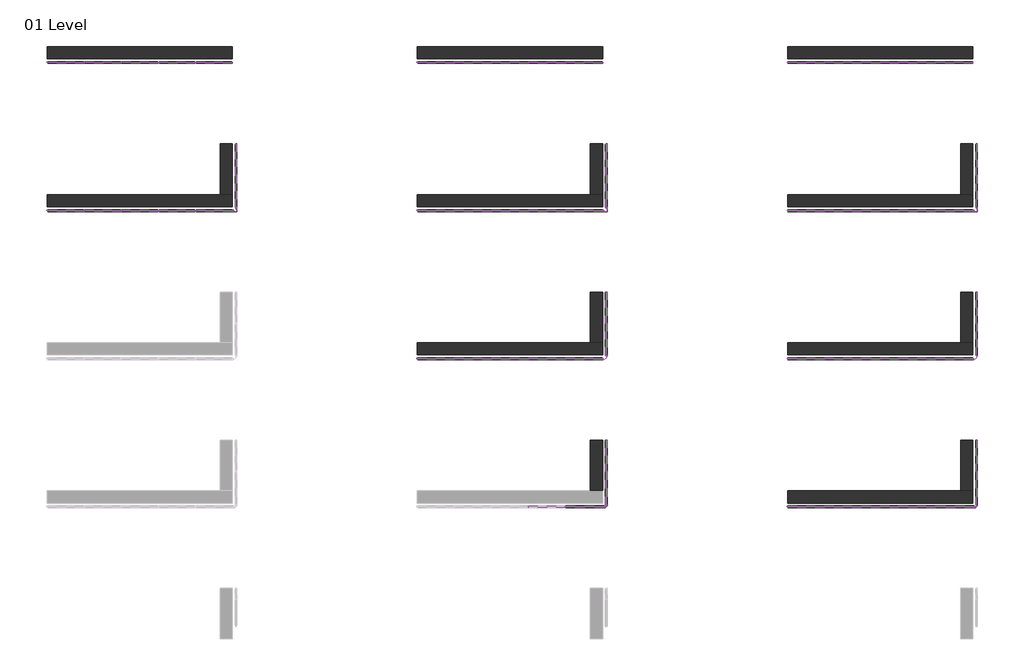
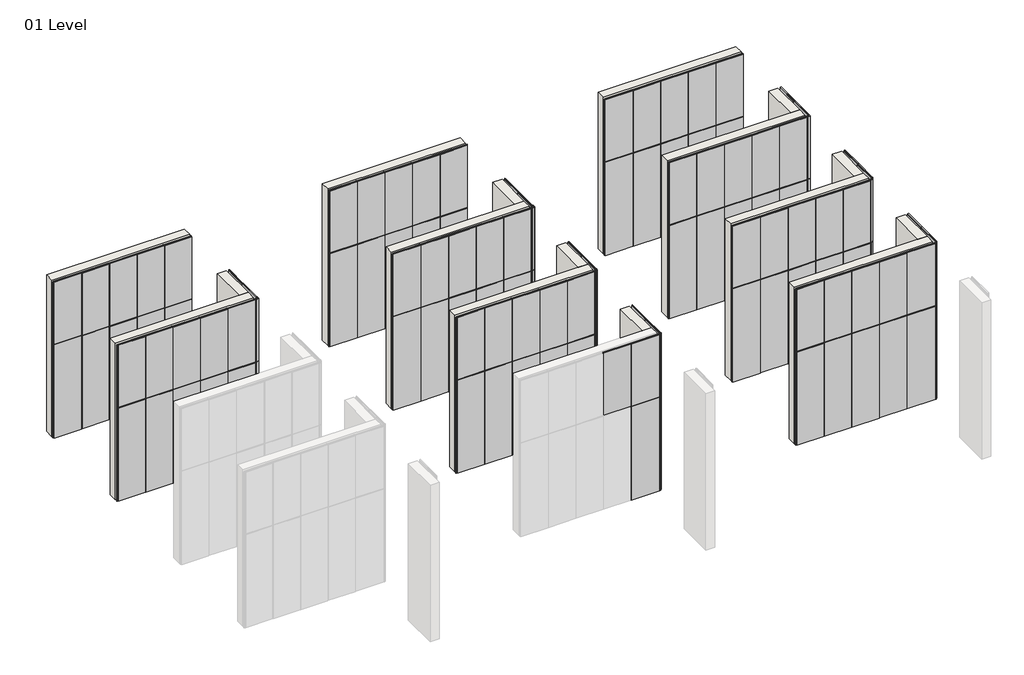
# One storey, part 9 of 9: 121 plates, 16 walls.
"""IFC4 building model written with IfcOpenShell, lengths in millimetres."""

from ifc_helpers import new_model, si_unit, origin, origin_with_axes, place, context, project, spatial, polyline, outline, extrude, faceted_brep, transform, mapped, element, save
from components import plate_214ba543, plate_652c8ec9, plate_a53cdf28, plate_28b83c4b, plate_9cd253ac, plate_fa0548bc, plate_03266036, plate_26fcdb20, plate_6a977542, plate_9e6a310b, plate_8625c289, plate_869ad82a, plate_431b4100, plate_801de16a, plate_af513f9f, plate_33d7b416, plate_911a777f, plate_6156d926, plate_39fda51a, plate_5637677f, plate_f77fe287, plate_504bdb2b, plate_a16a2f88, plate_ba954cb5, plate_8cbeb516, plate_391c79d7, plate_e4ad071d, plate_fc203410, plate_4d4ffbcd, plate_12ec6323, plate_7b32c614, plate_e3b225b6, plate_6d2e9c15, plate_6d0773e9, plate_b0e704c2, plate_dc24734b, plate_0ba88bf3, plate_6ee5b050, plate_bcce995c, plate_1cdea535

model = new_model("IFC4")

# Units and contexts
model_context = context("Model", 3, world=origin())
ifc_project = project(units=[si_unit("LENGTHUNIT", "METRE", prefix="MILLI")], contexts=[model_context])

# Site, building, storey
site = spatial("IfcSite", under=ifc_project)
building = spatial("IfcBuilding", under=site)
storey = spatial("IfcBuildingStorey", under=building, Name="01 Level", Elevation=0.0)

# Plates
placement = place(None, origin())
plate_shape = plate_214ba543(model_context)
element("IfcPlate", 1, ObjectType="Trimo_Qbiss Screen_Normal Panel-VERTICAL : HR - B", at=placement, inside=storey, context=model_context, shape_type="MappedRepresentation", body=[
    mapped(plate_shape, transform((21797.7762865, 12916.7286683, 0.0), x_axis=(-1.0, 0.0, 0.0), y_axis=(0.0, -1.0, 0.0), z_axis=(0.0, 0.0, 1.0))),
])
element("IfcPlate", 2, ObjectType="Trimo_Qbiss Screen_Normal Panel-VERTICAL : HR - B", at=placement, inside=storey, context=model_context, shape_type="MappedRepresentation", body=[
    mapped(plate_shape, transform((18797.7762865, 12916.7286683, 0.0), x_axis=(-1.0, 0.0, 0.0), y_axis=(0.0, -1.0, 0.0), z_axis=(0.0, 0.0, 1.0))),
])
element("IfcPlate", 3, ObjectType="Trimo_Qbiss Screen_Normal Panel-VERTICAL : HR - B", at=placement, inside=storey, context=model_context, shape_type="MappedRepresentation", body=[
    mapped(plate_shape, transform((19797.7762865, 8916.7286683, 0.0), x_axis=(-1.0, 0.0, 0.0), y_axis=(0.0, -1.0, 0.0), z_axis=(0.0, 0.0, 1.0))),
])
element("IfcPlate", 4, ObjectType="Trimo_Qbiss Screen_Normal Panel-VERTICAL : HR - B", at=placement, inside=storey, context=model_context, shape_type="MappedRepresentation", body=[
    mapped(plate_shape, transform((17797.7762865, 12916.7286683, 0.0), x_axis=(-1.0, 0.0, 0.0), y_axis=(0.0, -1.0, 0.0), z_axis=(0.0, 0.0, 1.0))),
])
element("IfcPlate", 5, ObjectType="Trimo_Qbiss Screen_Normal Panel-VERTICAL : HR - B", at=placement, inside=storey, context=model_context, shape_type="MappedRepresentation", body=[
    mapped(plate_shape, transform((19797.7762865, 12916.7286683, 0.0), x_axis=(-1.0, 0.0, 0.0), y_axis=(0.0, -1.0, 0.0), z_axis=(0.0, 0.0, 1.0))),
])
element("IfcPlate", 6, ObjectType="Trimo_Qbiss Screen_Normal Panel-VERTICAL : HR - B", at=placement, inside=storey, context=model_context, shape_type="MappedRepresentation", body=[
    mapped(plate_shape, transform((20797.7762865, 12916.7286683, 0.0), x_axis=(-1.0, 0.0, 0.0), y_axis=(0.0, -1.0, 0.0), z_axis=(0.0, 0.0, 1.0))),
])
element("IfcPlate", 7, ObjectType="Trimo_Qbiss Screen_Normal Panel-VERTICAL : HR - B", at=placement, inside=storey, context=model_context, shape_type="MappedRepresentation", body=[
    mapped(plate_shape, transform((17797.7762865, 8916.7286683, 0.0), x_axis=(-1.0, 0.0, 0.0), y_axis=(0.0, -1.0, 0.0), z_axis=(0.0, 0.0, 1.0))),
])
element("IfcPlate", 8, ObjectType="Trimo_Qbiss Screen_Normal Panel-VERTICAL : HR - B", at=placement, inside=storey, context=model_context, shape_type="MappedRepresentation", body=[
    mapped(plate_shape, transform((18797.7762865, 8916.7286683, 0.0), x_axis=(-1.0, 0.0, 0.0), y_axis=(0.0, -1.0, 0.0), z_axis=(0.0, 0.0, 1.0))),
])
element("IfcPlate", 9, ObjectType="Trimo_Qbiss Screen_Normal Panel-VERTICAL : HR - B", at=placement, inside=storey, context=model_context, shape_type="MappedRepresentation", body=[
    mapped(plate_shape, transform((20797.7762865, 8916.7286683, 0.0), x_axis=(-1.0, 0.0, 0.0), y_axis=(0.0, -1.0, 0.0), z_axis=(0.0, 0.0, 1.0))),
])
plate_2_shape = plate_652c8ec9(model_context)
element("IfcPlate", 10, ObjectType="Trimo_Qbiss Screen_Normal Panel-VERTICAL : HR - B", at=placement, inside=storey, context=model_context, shape_type="MappedRepresentation", body=[
    mapped(plate_2_shape, transform((21797.7762865, 12916.7286683, 3600.0), x_axis=(-1.0, 0.0, 0.0), y_axis=(0.0, -1.0, 0.0), z_axis=(0.0, 0.0, 1.0))),
])
element("IfcPlate", 11, ObjectType="Trimo_Qbiss Screen_Normal Panel-VERTICAL : HR - B", at=placement, inside=storey, context=model_context, shape_type="MappedRepresentation", body=[
    mapped(plate_2_shape, transform((18797.7762865, 12916.7286683, 3600.0), x_axis=(-1.0, 0.0, 0.0), y_axis=(0.0, -1.0, 0.0), z_axis=(0.0, 0.0, 1.0))),
])
element("IfcPlate", 12, ObjectType="Trimo_Qbiss Screen_Normal Panel-VERTICAL : HR - B", at=placement, inside=storey, context=model_context, shape_type="MappedRepresentation", body=[
    mapped(plate_2_shape, transform((19797.7762865, 8916.7286683, 3600.0), x_axis=(-1.0, 0.0, 0.0), y_axis=(0.0, -1.0, 0.0), z_axis=(0.0, 0.0, 1.0))),
])
element("IfcPlate", 13, ObjectType="Trimo_Qbiss Screen_Normal Panel-VERTICAL : HR - B", at=placement, inside=storey, context=model_context, shape_type="MappedRepresentation", body=[
    mapped(plate_2_shape, transform((17797.7762865, 12916.7286683, 3600.0), x_axis=(-1.0, 0.0, 0.0), y_axis=(0.0, -1.0, 0.0), z_axis=(0.0, 0.0, 1.0))),
])
element("IfcPlate", 14, ObjectType="Trimo_Qbiss Screen_Normal Panel-VERTICAL : HR - B", at=placement, inside=storey, context=model_context, shape_type="MappedRepresentation", body=[
    mapped(plate_2_shape, transform((19797.7762865, 12916.7286683, 3600.0), x_axis=(-1.0, 0.0, 0.0), y_axis=(0.0, -1.0, 0.0), z_axis=(0.0, 0.0, 1.0))),
])
element("IfcPlate", 15, ObjectType="Trimo_Qbiss Screen_Normal Panel-VERTICAL : HR - B", at=placement, inside=storey, context=model_context, shape_type="MappedRepresentation", body=[
    mapped(plate_2_shape, transform((20797.7762865, 12916.7286683, 3600.0), x_axis=(-1.0, 0.0, 0.0), y_axis=(0.0, -1.0, 0.0), z_axis=(0.0, 0.0, 1.0))),
])
element("IfcPlate", 16, ObjectType="Trimo_Qbiss Screen_Normal Panel-VERTICAL : HR - B", at=placement, inside=storey, context=model_context, shape_type="MappedRepresentation", body=[
    mapped(plate_2_shape, transform((17797.7762865, 8916.7286683, 3600.0), x_axis=(-1.0, 0.0, 0.0), y_axis=(0.0, -1.0, 0.0), z_axis=(0.0, 0.0, 1.0))),
])
element("IfcPlate", 17, ObjectType="Trimo_Qbiss Screen_Normal Panel-VERTICAL : HR - B", at=placement, inside=storey, context=model_context, shape_type="MappedRepresentation", body=[
    mapped(plate_2_shape, transform((18797.7762865, 8916.7286683, 3600.0), x_axis=(-1.0, 0.0, 0.0), y_axis=(0.0, -1.0, 0.0), z_axis=(0.0, 0.0, 1.0))),
])
element("IfcPlate", 18, ObjectType="Trimo_Qbiss Screen_Normal Panel-VERTICAL : HR - B", at=placement, inside=storey, context=model_context, shape_type="MappedRepresentation", body=[
    mapped(plate_2_shape, transform((20797.7762865, 8916.7286683, 3600.0), x_axis=(-1.0, 0.0, 0.0), y_axis=(0.0, -1.0, 0.0), z_axis=(0.0, 0.0, 1.0))),
])
plate_3_shape = plate_a53cdf28(model_context)
element("IfcPlate", 19, ObjectType="Trimo_Qbiss Screen_Normal Panel-VERTICAL : HR - B", at=placement, inside=storey, context=model_context, shape_type="MappedRepresentation", body=[
    mapped(plate_3_shape, transform((21797.7762865, 8916.7286683, 0.0), x_axis=(-1.0, 0.0, 0.0), y_axis=(0.0, -1.0, 0.0), z_axis=(0.0, 0.0, 1.0))),
])
plate_4_shape = plate_28b83c4b(model_context)
element("IfcPlate", 20, ObjectType="Trimo_Qbiss Screen_Normal Panel-VERTICAL : HR - B", at=placement, inside=storey, context=model_context, shape_type="MappedRepresentation", body=[
    mapped(plate_4_shape, transform((21797.7762865, 8916.7286683, 3600.0), x_axis=(-1.0, 0.0, 0.0), y_axis=(0.0, -1.0, 0.0), z_axis=(0.0, 0.0, 1.0))),
])
plate_5_shape = plate_9cd253ac(model_context)
element("IfcPlate", 21, ObjectType="Trimo_Qbiss Screen_Normal Panel-VERTICAL : HR - B", at=placement, inside=storey, context=model_context, shape_type="MappedRepresentation", body=[
    mapped(plate_5_shape, transform((22297.7762865, 10191.7286683, 0.0), x_axis=(0.0, -1.0, 0.0), y_axis=(1.0, 0.0, 0.0), z_axis=(0.0, 0.0, 1.0))),
])
plate_6_shape = plate_fa0548bc(model_context)
element("IfcPlate", 22, ObjectType="Trimo_Qbiss Screen_Normal Panel-VERTICAL : HR - B", at=placement, inside=storey, context=model_context, shape_type="MappedRepresentation", body=[
    mapped(plate_6_shape, transform((22297.7762865, 10191.7286683, 3600.0), x_axis=(0.0, -1.0, 0.0), y_axis=(1.0, 0.0, 0.0), z_axis=(0.0, 0.0, 1.0))),
])
plate_7_shape = plate_03266036(model_context)
element("IfcPlate", 23, ObjectType="Trimo_Qbiss Screen_Normal Panel-VERTICAL : HR - B", at=placement, inside=storey, context=model_context, shape_type="MappedRepresentation", body=[
    mapped(plate_7_shape, transform((22297.7762865, 9341.7286683, 0.0), x_axis=(0.0, -1.0, 0.0), y_axis=(1.0, 0.0, 0.0), z_axis=(0.0, 0.0, 1.0))),
])
plate_8_shape = plate_26fcdb20(model_context)
element("IfcPlate", 24, ObjectType="Trimo_Qbiss Screen_Normal Panel-VERTICAL : HR - B", at=placement, inside=storey, context=model_context, shape_type="MappedRepresentation", body=[
    mapped(plate_8_shape, transform((22297.7762865, 9341.7286683, 3600.0), x_axis=(0.0, -1.0, 0.0), y_axis=(1.0, 0.0, 0.0), z_axis=(0.0, 0.0, 1.0))),
])
plate_9_shape = plate_6a977542(model_context)
element("IfcPlate", 25, ObjectType="Trimo_Qbiss Screen_Normal Panel-VERTICAL : HR - FB", at=placement, inside=storey, context=model_context, shape_type="MappedRepresentation", body=[
    mapped(plate_9_shape, transform((31797.7762865, 12916.7286683, 0.0), x_axis=(-1.0, 0.0, 0.0), y_axis=(0.0, -1.0, 0.0), z_axis=(0.0, 0.0, 1.0))),
])
element("IfcPlate", 26, ObjectType="Trimo_Qbiss Screen_Normal Panel-VERTICAL : HR - FB", at=placement, inside=storey, context=model_context, shape_type="MappedRepresentation", body=[
    mapped(plate_9_shape, transform((28797.7762865, 12916.7286683, 0.0), x_axis=(-1.0, 0.0, 0.0), y_axis=(0.0, -1.0, 0.0), z_axis=(0.0, 0.0, 1.0))),
])
element("IfcPlate", 27, ObjectType="Trimo_Qbiss Screen_Normal Panel-VERTICAL : HR - FB", at=placement, inside=storey, context=model_context, shape_type="MappedRepresentation", body=[
    mapped(plate_9_shape, transform((29797.7762865, 8916.7286683, 0.0), x_axis=(-1.0, 0.0, 0.0), y_axis=(0.0, -1.0, 0.0), z_axis=(0.0, 0.0, 1.0))),
])
element("IfcPlate", 28, ObjectType="Trimo_Qbiss Screen_Normal Panel-VERTICAL : HR - FB", at=placement, inside=storey, context=model_context, shape_type="MappedRepresentation", body=[
    mapped(plate_9_shape, transform((29797.7762865, 4916.7286683, 0.0), x_axis=(-1.0, 0.0, 0.0), y_axis=(0.0, -1.0, 0.0), z_axis=(0.0, 0.0, 1.0))),
])
element("IfcPlate", 29, ObjectType="Trimo_Qbiss Screen_Normal Panel-VERTICAL : HR - FB", at=placement, inside=storey, context=model_context, shape_type="MappedRepresentation", body=[
    mapped(plate_9_shape, transform((27797.7762865, 12916.7286683, 0.0), x_axis=(-1.0, 0.0, 0.0), y_axis=(0.0, -1.0, 0.0), z_axis=(0.0, 0.0, 1.0))),
])
element("IfcPlate", 30, ObjectType="Trimo_Qbiss Screen_Normal Panel-VERTICAL : HR - FB", at=placement, inside=storey, context=model_context, shape_type="MappedRepresentation", body=[
    mapped(plate_9_shape, transform((29797.7762865, 12916.7286683, 0.0), x_axis=(-1.0, 0.0, 0.0), y_axis=(0.0, -1.0, 0.0), z_axis=(0.0, 0.0, 1.0))),
])
element("IfcPlate", 31, ObjectType="Trimo_Qbiss Screen_Normal Panel-VERTICAL : HR - FB", at=placement, inside=storey, context=model_context, shape_type="MappedRepresentation", body=[
    mapped(plate_9_shape, transform((30797.7762865, 12916.7286683, 0.0), x_axis=(-1.0, 0.0, 0.0), y_axis=(0.0, -1.0, 0.0), z_axis=(0.0, 0.0, 1.0))),
])
element("IfcPlate", 32, ObjectType="Trimo_Qbiss Screen_Normal Panel-VERTICAL : HR - FB", at=placement, inside=storey, context=model_context, shape_type="MappedRepresentation", body=[
    mapped(plate_9_shape, transform((27797.7762865, 8916.7286683, 0.0), x_axis=(-1.0, 0.0, 0.0), y_axis=(0.0, -1.0, 0.0), z_axis=(0.0, 0.0, 1.0))),
])
element("IfcPlate", 33, ObjectType="Trimo_Qbiss Screen_Normal Panel-VERTICAL : HR - FB", at=placement, inside=storey, context=model_context, shape_type="MappedRepresentation", body=[
    mapped(plate_9_shape, transform((28797.7762865, 8916.7286683, 0.0), x_axis=(-1.0, 0.0, 0.0), y_axis=(0.0, -1.0, 0.0), z_axis=(0.0, 0.0, 1.0))),
])
element("IfcPlate", 34, ObjectType="Trimo_Qbiss Screen_Normal Panel-VERTICAL : HR - FB", at=placement, inside=storey, context=model_context, shape_type="MappedRepresentation", body=[
    mapped(plate_9_shape, transform((30797.7762865, 8916.7286683, 0.0), x_axis=(-1.0, 0.0, 0.0), y_axis=(0.0, -1.0, 0.0), z_axis=(0.0, 0.0, 1.0))),
])
element("IfcPlate", 35, ObjectType="Trimo_Qbiss Screen_Normal Panel-VERTICAL : HR - FB", at=placement, inside=storey, context=model_context, shape_type="MappedRepresentation", body=[
    mapped(plate_9_shape, transform((27797.7762865, 4916.7286683, 0.0), x_axis=(-1.0, 0.0, 0.0), y_axis=(0.0, -1.0, 0.0), z_axis=(0.0, 0.0, 1.0))),
])
element("IfcPlate", 36, ObjectType="Trimo_Qbiss Screen_Normal Panel-VERTICAL : HR - FB", at=placement, inside=storey, context=model_context, shape_type="MappedRepresentation", body=[
    mapped(plate_9_shape, transform((28797.7762865, 4916.7286683, 0.0), x_axis=(-1.0, 0.0, 0.0), y_axis=(0.0, -1.0, 0.0), z_axis=(0.0, 0.0, 1.0))),
])
element("IfcPlate", 37, ObjectType="Trimo_Qbiss Screen_Normal Panel-VERTICAL : HR - FB", at=placement, inside=storey, context=model_context, shape_type="MappedRepresentation", body=[
    mapped(plate_9_shape, transform((30797.7762865, 4916.7286683, 0.0), x_axis=(-1.0, 0.0, 0.0), y_axis=(0.0, -1.0, 0.0), z_axis=(0.0, 0.0, 1.0))),
])
plate_10_shape = plate_9e6a310b(model_context)
element("IfcPlate", 38, ObjectType="Trimo_Qbiss Screen_Normal Panel-VERTICAL : HR - FB", at=placement, inside=storey, context=model_context, shape_type="MappedRepresentation", body=[
    mapped(plate_10_shape, transform((31797.7762865, 12916.7286683, 3600.0), x_axis=(-1.0, 0.0, 0.0), y_axis=(0.0, -1.0, 0.0), z_axis=(0.0, 0.0, 1.0))),
])
element("IfcPlate", 39, ObjectType="Trimo_Qbiss Screen_Normal Panel-VERTICAL : HR - FB", at=placement, inside=storey, context=model_context, shape_type="MappedRepresentation", body=[
    mapped(plate_10_shape, transform((28797.7762865, 12916.7286683, 3600.0), x_axis=(-1.0, 0.0, 0.0), y_axis=(0.0, -1.0, 0.0), z_axis=(0.0, 0.0, 1.0))),
])
element("IfcPlate", 40, ObjectType="Trimo_Qbiss Screen_Normal Panel-VERTICAL : HR - FB", at=placement, inside=storey, context=model_context, shape_type="MappedRepresentation", body=[
    mapped(plate_10_shape, transform((29797.7762865, 8916.7286683, 3600.0), x_axis=(-1.0, 0.0, 0.0), y_axis=(0.0, -1.0, 0.0), z_axis=(0.0, 0.0, 1.0))),
])
element("IfcPlate", 41, ObjectType="Trimo_Qbiss Screen_Normal Panel-VERTICAL : HR - FB", at=placement, inside=storey, context=model_context, shape_type="MappedRepresentation", body=[
    mapped(plate_10_shape, transform((29797.7762865, 4916.7286683, 3600.0), x_axis=(-1.0, 0.0, 0.0), y_axis=(0.0, -1.0, 0.0), z_axis=(0.0, 0.0, 1.0))),
])
element("IfcPlate", 42, ObjectType="Trimo_Qbiss Screen_Normal Panel-VERTICAL : HR - FB", at=placement, inside=storey, context=model_context, shape_type="MappedRepresentation", body=[
    mapped(plate_10_shape, transform((27797.7762865, 12916.7286683, 3600.0), x_axis=(-1.0, 0.0, 0.0), y_axis=(0.0, -1.0, 0.0), z_axis=(0.0, 0.0, 1.0))),
])
element("IfcPlate", 43, ObjectType="Trimo_Qbiss Screen_Normal Panel-VERTICAL : HR - FB", at=placement, inside=storey, context=model_context, shape_type="MappedRepresentation", body=[
    mapped(plate_10_shape, transform((29797.7762865, 12916.7286683, 3600.0), x_axis=(-1.0, 0.0, 0.0), y_axis=(0.0, -1.0, 0.0), z_axis=(0.0, 0.0, 1.0))),
])
element("IfcPlate", 44, ObjectType="Trimo_Qbiss Screen_Normal Panel-VERTICAL : HR - FB", at=placement, inside=storey, context=model_context, shape_type="MappedRepresentation", body=[
    mapped(plate_10_shape, transform((30797.7762865, 12916.7286683, 3600.0), x_axis=(-1.0, 0.0, 0.0), y_axis=(0.0, -1.0, 0.0), z_axis=(0.0, 0.0, 1.0))),
])
element("IfcPlate", 45, ObjectType="Trimo_Qbiss Screen_Normal Panel-VERTICAL : HR - FB", at=placement, inside=storey, context=model_context, shape_type="MappedRepresentation", body=[
    mapped(plate_10_shape, transform((27797.7762865, 8916.7286683, 3600.0), x_axis=(-1.0, 0.0, 0.0), y_axis=(0.0, -1.0, 0.0), z_axis=(0.0, 0.0, 1.0))),
])
element("IfcPlate", 46, ObjectType="Trimo_Qbiss Screen_Normal Panel-VERTICAL : HR - FB", at=placement, inside=storey, context=model_context, shape_type="MappedRepresentation", body=[
    mapped(plate_10_shape, transform((28797.7762865, 8916.7286683, 3600.0), x_axis=(-1.0, 0.0, 0.0), y_axis=(0.0, -1.0, 0.0), z_axis=(0.0, 0.0, 1.0))),
])
element("IfcPlate", 47, ObjectType="Trimo_Qbiss Screen_Normal Panel-VERTICAL : HR - FB", at=placement, inside=storey, context=model_context, shape_type="MappedRepresentation", body=[
    mapped(plate_10_shape, transform((30797.7762865, 8916.7286683, 3600.0), x_axis=(-1.0, 0.0, 0.0), y_axis=(0.0, -1.0, 0.0), z_axis=(0.0, 0.0, 1.0))),
])
element("IfcPlate", 48, ObjectType="Trimo_Qbiss Screen_Normal Panel-VERTICAL : HR - FB", at=placement, inside=storey, context=model_context, shape_type="MappedRepresentation", body=[
    mapped(plate_10_shape, transform((27797.7762865, 4916.7286683, 3600.0), x_axis=(-1.0, 0.0, 0.0), y_axis=(0.0, -1.0, 0.0), z_axis=(0.0, 0.0, 1.0))),
])
element("IfcPlate", 49, ObjectType="Trimo_Qbiss Screen_Normal Panel-VERTICAL : HR - FB", at=placement, inside=storey, context=model_context, shape_type="MappedRepresentation", body=[
    mapped(plate_10_shape, transform((28797.7762865, 4916.7286683, 3600.0), x_axis=(-1.0, 0.0, 0.0), y_axis=(0.0, -1.0, 0.0), z_axis=(0.0, 0.0, 1.0))),
])
element("IfcPlate", 50, ObjectType="Trimo_Qbiss Screen_Normal Panel-VERTICAL : HR - FB", at=placement, inside=storey, context=model_context, shape_type="MappedRepresentation", body=[
    mapped(plate_10_shape, transform((30797.7762865, 4916.7286683, 3600.0), x_axis=(-1.0, 0.0, 0.0), y_axis=(0.0, -1.0, 0.0), z_axis=(0.0, 0.0, 1.0))),
])
element("IfcPlate", 51, ObjectType="Trimo_Qbiss Screen_Normal Panel-VERTICAL : HR - FB", at=placement, inside=storey, context=model_context, shape_type="MappedRepresentation", body=[
    mapped(plate_10_shape, transform((30797.7762865, 916.7286683, 3600.0), x_axis=(-1.0, 0.0, 0.0), y_axis=(0.0, -1.0, 0.0), z_axis=(0.0, 0.0, 1.0))),
])
plate_11_shape = plate_8625c289(model_context)
element("IfcPlate", 52, ObjectType="Trimo_Qbiss Screen_Normal Panel-VERTICAL : HR - FB", at=placement, inside=storey, context=model_context, shape_type="MappedRepresentation", body=[
    mapped(plate_11_shape, transform((31797.7762865, 8916.7286683, 0.0), x_axis=(-1.0, 0.0, 0.0), y_axis=(0.0, -1.0, 0.0), z_axis=(0.0, 0.0, 1.0))),
])
plate_12_shape = plate_869ad82a(model_context)
element("IfcPlate", 53, ObjectType="Trimo_Qbiss Screen_Normal Panel-VERTICAL : HR - FB", at=placement, inside=storey, context=model_context, shape_type="MappedRepresentation", body=[
    mapped(plate_12_shape, transform((31797.7762865, 8916.7286683, 3600.0), x_axis=(-1.0, 0.0, 0.0), y_axis=(0.0, -1.0, 0.0), z_axis=(0.0, 0.0, 1.0))),
])
plate_13_shape = plate_431b4100(model_context)
element("IfcPlate", 54, ObjectType="Trimo_Qbiss Screen_Normal Panel-VERTICAL : HR - FB", at=placement, inside=storey, context=model_context, shape_type="MappedRepresentation", body=[
    mapped(plate_13_shape, transform((31797.7762865, 4916.7286683, 0.0), x_axis=(-1.0, 0.0, 0.0), y_axis=(0.0, -1.0, 0.0), z_axis=(0.0, 0.0, 1.0))),
])
plate_14_shape = plate_801de16a(model_context)
element("IfcPlate", 55, ObjectType="Trimo_Qbiss Screen_Normal Panel-VERTICAL : HR - FB", at=placement, inside=storey, context=model_context, shape_type="MappedRepresentation", body=[
    mapped(plate_14_shape, transform((31797.7762865, 4916.7286683, 3600.0), x_axis=(-1.0, 0.0, 0.0), y_axis=(0.0, -1.0, 0.0), z_axis=(0.0, 0.0, 1.0))),
])
plate_15_shape = plate_af513f9f(model_context)
element("IfcPlate", 56, ObjectType="Trimo_Qbiss Screen_Normal Panel-VERTICAL : HR - FB", at=placement, inside=storey, context=model_context, shape_type="MappedRepresentation", body=[
    mapped(plate_15_shape, transform((31797.7762865, 916.7286683, 0.0), x_axis=(-1.0, 0.0, 0.0), y_axis=(0.0, -1.0, 0.0), z_axis=(0.0, 0.0, 1.0))),
])
plate_16_shape = plate_33d7b416(model_context)
element("IfcPlate", 57, ObjectType="Trimo_Qbiss Screen_Normal Panel-VERTICAL : HR - FB", at=placement, inside=storey, context=model_context, shape_type="MappedRepresentation", body=[
    mapped(plate_16_shape, transform((31797.7762865, 916.7286683, 3600.0), x_axis=(-1.0, 0.0, 0.0), y_axis=(0.0, -1.0, 0.0), z_axis=(0.0, 0.0, 1.0))),
])
plate_17_shape = plate_911a777f(model_context)
element("IfcPlate", 58, ObjectType="Trimo_Qbiss Screen_Normal Panel-VERTICAL : HR - FB", at=placement, inside=storey, context=model_context, shape_type="MappedRepresentation", body=[
    mapped(plate_17_shape, transform((32297.7762865, 10191.7286683, 0.0), x_axis=(0.0, -1.0, 0.0), y_axis=(1.0, 0.0, 0.0), z_axis=(0.0, 0.0, 1.0))),
])
element("IfcPlate", 59, ObjectType="Trimo_Qbiss Screen_Normal Panel-VERTICAL : HR - FB", at=placement, inside=storey, context=model_context, shape_type="MappedRepresentation", body=[
    mapped(plate_17_shape, transform((32297.7762865, 6191.7286683, 0.0), x_axis=(0.0, -1.0, 0.0), y_axis=(1.0, 0.0, 0.0), z_axis=(0.0, 0.0, 1.0))),
])
element("IfcPlate", 60, ObjectType="Trimo_Qbiss Screen_Normal Panel-VERTICAL : HR - FB", at=placement, inside=storey, context=model_context, shape_type="MappedRepresentation", body=[
    mapped(plate_17_shape, transform((32297.7762865, 2191.7286683, 0.0), x_axis=(0.0, -1.0, 0.0), y_axis=(1.0, 0.0, 0.0), z_axis=(0.0, 0.0, 1.0))),
])
plate_18_shape = plate_6156d926(model_context)
element("IfcPlate", 61, ObjectType="Trimo_Qbiss Screen_Normal Panel-VERTICAL : HR - FB", at=placement, inside=storey, context=model_context, shape_type="MappedRepresentation", body=[
    mapped(plate_18_shape, transform((32297.7762865, 10191.7286683, 3600.0), x_axis=(0.0, -1.0, 0.0), y_axis=(1.0, 0.0, 0.0), z_axis=(0.0, 0.0, 1.0))),
])
element("IfcPlate", 62, ObjectType="Trimo_Qbiss Screen_Normal Panel-VERTICAL : HR - FB", at=placement, inside=storey, context=model_context, shape_type="MappedRepresentation", body=[
    mapped(plate_18_shape, transform((32297.7762865, 6191.7286683, 3600.0), x_axis=(0.0, -1.0, 0.0), y_axis=(1.0, 0.0, 0.0), z_axis=(0.0, 0.0, 1.0))),
])
element("IfcPlate", 63, ObjectType="Trimo_Qbiss Screen_Normal Panel-VERTICAL : HR - FB", at=placement, inside=storey, context=model_context, shape_type="MappedRepresentation", body=[
    mapped(plate_18_shape, transform((32297.7762865, 2191.7286683, 3600.0), x_axis=(0.0, -1.0, 0.0), y_axis=(1.0, 0.0, 0.0), z_axis=(0.0, 0.0, 1.0))),
])
plate_19_shape = plate_39fda51a(model_context)
element("IfcPlate", 64, ObjectType="Trimo_Qbiss Screen_Normal Panel-VERTICAL : HR - FB", at=placement, inside=storey, context=model_context, shape_type="MappedRepresentation", body=[
    mapped(plate_19_shape, transform((32297.7762865, 9341.7286683, 0.0), x_axis=(0.0, -1.0, 0.0), y_axis=(1.0, 0.0, 0.0), z_axis=(0.0, 0.0, 1.0))),
])
plate_20_shape = plate_5637677f(model_context)
element("IfcPlate", 65, ObjectType="Trimo_Qbiss Screen_Normal Panel-VERTICAL : HR - FB", at=placement, inside=storey, context=model_context, shape_type="MappedRepresentation", body=[
    mapped(plate_20_shape, transform((32297.7762865, 9341.7286683, 3600.0), x_axis=(0.0, -1.0, 0.0), y_axis=(1.0, 0.0, 0.0), z_axis=(0.0, 0.0, 1.0))),
])
plate_21_shape = plate_f77fe287(model_context)
element("IfcPlate", 66, ObjectType="Trimo_Qbiss Screen_Normal Panel-VERTICAL : HR - FB", at=placement, inside=storey, context=model_context, shape_type="MappedRepresentation", body=[
    mapped(plate_21_shape, transform((32297.7762865, 5341.7286683, 0.0), x_axis=(0.0, -1.0, 0.0), y_axis=(1.0, 0.0, 0.0), z_axis=(0.0, 0.0, 1.0))),
])
plate_22_shape = plate_504bdb2b(model_context)
element("IfcPlate", 67, ObjectType="Trimo_Qbiss Screen_Normal Panel-VERTICAL : HR - FB", at=placement, inside=storey, context=model_context, shape_type="MappedRepresentation", body=[
    mapped(plate_22_shape, transform((32297.7762865, 5341.7286683, 3600.0), x_axis=(0.0, -1.0, 0.0), y_axis=(1.0, 0.0, 0.0), z_axis=(0.0, 0.0, 1.0))),
])
plate_23_shape = plate_a16a2f88(model_context)
element("IfcPlate", 68, ObjectType="Trimo_Qbiss Screen_Normal Panel-VERTICAL : HR - FB", at=placement, inside=storey, context=model_context, shape_type="MappedRepresentation", body=[
    mapped(plate_23_shape, transform((32297.7762865, 1341.7286683, 0.0), x_axis=(0.0, -1.0, 0.0), y_axis=(1.0, 0.0, 0.0), z_axis=(0.0, 0.0, 1.0))),
])
plate_24_shape = plate_ba954cb5(model_context)
element("IfcPlate", 69, ObjectType="Trimo_Qbiss Screen_Normal Panel-VERTICAL : HR - FB", at=placement, inside=storey, context=model_context, shape_type="MappedRepresentation", body=[
    mapped(plate_24_shape, transform((32297.7762865, 1341.7286683, 3600.0), x_axis=(0.0, -1.0, 0.0), y_axis=(1.0, 0.0, 0.0), z_axis=(0.0, 0.0, 1.0))),
])
plate_25_shape = plate_8cbeb516(model_context)
element("IfcPlate", 70, ObjectType="Trimo_Qbiss Screen_Normal Panel-VERTICAL : HR - FB-F", at=placement, inside=storey, context=model_context, shape_type="MappedRepresentation", body=[
    mapped(plate_25_shape, transform((41797.7762865, 12916.7286683, 0.0), x_axis=(-1.0, 0.0, 0.0), y_axis=(0.0, -1.0, 0.0), z_axis=(0.0, 0.0, 1.0))),
])
element("IfcPlate", 71, ObjectType="Trimo_Qbiss Screen_Normal Panel-VERTICAL : HR - FB-F", at=placement, inside=storey, context=model_context, shape_type="MappedRepresentation", body=[
    mapped(plate_25_shape, transform((38797.7762865, 12916.7286683, 0.0), x_axis=(-1.0, 0.0, 0.0), y_axis=(0.0, -1.0, 0.0), z_axis=(0.0, 0.0, 1.0))),
])
element("IfcPlate", 72, ObjectType="Trimo_Qbiss Screen_Normal Panel-VERTICAL : HR - FB-F", at=placement, inside=storey, context=model_context, shape_type="MappedRepresentation", body=[
    mapped(plate_25_shape, transform((39797.7762865, 8916.7286683, 0.0), x_axis=(-1.0, 0.0, 0.0), y_axis=(0.0, -1.0, 0.0), z_axis=(0.0, 0.0, 1.0))),
])
element("IfcPlate", 73, ObjectType="Trimo_Qbiss Screen_Normal Panel-VERTICAL : HR - FB-F", at=placement, inside=storey, context=model_context, shape_type="MappedRepresentation", body=[
    mapped(plate_25_shape, transform((39797.7762865, 4916.7286683, 0.0), x_axis=(-1.0, 0.0, 0.0), y_axis=(0.0, -1.0, 0.0), z_axis=(0.0, 0.0, 1.0))),
])
element("IfcPlate", 74, ObjectType="Trimo_Qbiss Screen_Normal Panel-VERTICAL : HR - FB-F", at=placement, inside=storey, context=model_context, shape_type="MappedRepresentation", body=[
    mapped(plate_25_shape, transform((39797.7762865, 916.7286683, 0.0), x_axis=(-1.0, 0.0, 0.0), y_axis=(0.0, -1.0, 0.0), z_axis=(0.0, 0.0, 1.0))),
])
element("IfcPlate", 75, ObjectType="Trimo_Qbiss Screen_Normal Panel-VERTICAL : HR - FB-F", at=placement, inside=storey, context=model_context, shape_type="MappedRepresentation", body=[
    mapped(plate_25_shape, transform((37797.7762865, 12916.7286683, 0.0), x_axis=(-1.0, 0.0, 0.0), y_axis=(0.0, -1.0, 0.0), z_axis=(0.0, 0.0, 1.0))),
])
element("IfcPlate", 76, ObjectType="Trimo_Qbiss Screen_Normal Panel-VERTICAL : HR - FB-F", at=placement, inside=storey, context=model_context, shape_type="MappedRepresentation", body=[
    mapped(plate_25_shape, transform((39797.7762865, 12916.7286683, 0.0), x_axis=(-1.0, 0.0, 0.0), y_axis=(0.0, -1.0, 0.0), z_axis=(0.0, 0.0, 1.0))),
])
element("IfcPlate", 77, ObjectType="Trimo_Qbiss Screen_Normal Panel-VERTICAL : HR - FB-F", at=placement, inside=storey, context=model_context, shape_type="MappedRepresentation", body=[
    mapped(plate_25_shape, transform((40797.7762865, 12916.7286683, 0.0), x_axis=(-1.0, 0.0, 0.0), y_axis=(0.0, -1.0, 0.0), z_axis=(0.0, 0.0, 1.0))),
])
element("IfcPlate", 78, ObjectType="Trimo_Qbiss Screen_Normal Panel-VERTICAL : HR - FB-F", at=placement, inside=storey, context=model_context, shape_type="MappedRepresentation", body=[
    mapped(plate_25_shape, transform((37797.7762865, 8916.7286683, 0.0), x_axis=(-1.0, 0.0, 0.0), y_axis=(0.0, -1.0, 0.0), z_axis=(0.0, 0.0, 1.0))),
])
element("IfcPlate", 79, ObjectType="Trimo_Qbiss Screen_Normal Panel-VERTICAL : HR - FB-F", at=placement, inside=storey, context=model_context, shape_type="MappedRepresentation", body=[
    mapped(plate_25_shape, transform((38797.7762865, 8916.7286683, 0.0), x_axis=(-1.0, 0.0, 0.0), y_axis=(0.0, -1.0, 0.0), z_axis=(0.0, 0.0, 1.0))),
])
element("IfcPlate", 80, ObjectType="Trimo_Qbiss Screen_Normal Panel-VERTICAL : HR - FB-F", at=placement, inside=storey, context=model_context, shape_type="MappedRepresentation", body=[
    mapped(plate_25_shape, transform((40797.7762865, 8916.7286683, 0.0), x_axis=(-1.0, 0.0, 0.0), y_axis=(0.0, -1.0, 0.0), z_axis=(0.0, 0.0, 1.0))),
])
element("IfcPlate", 81, ObjectType="Trimo_Qbiss Screen_Normal Panel-VERTICAL : HR - FB-F", at=placement, inside=storey, context=model_context, shape_type="MappedRepresentation", body=[
    mapped(plate_25_shape, transform((37797.7762865, 4916.7286683, 0.0), x_axis=(-1.0, 0.0, 0.0), y_axis=(0.0, -1.0, 0.0), z_axis=(0.0, 0.0, 1.0))),
])
element("IfcPlate", 82, ObjectType="Trimo_Qbiss Screen_Normal Panel-VERTICAL : HR - FB-F", at=placement, inside=storey, context=model_context, shape_type="MappedRepresentation", body=[
    mapped(plate_25_shape, transform((38797.7762865, 4916.7286683, 0.0), x_axis=(-1.0, 0.0, 0.0), y_axis=(0.0, -1.0, 0.0), z_axis=(0.0, 0.0, 1.0))),
])
element("IfcPlate", 83, ObjectType="Trimo_Qbiss Screen_Normal Panel-VERTICAL : HR - FB-F", at=placement, inside=storey, context=model_context, shape_type="MappedRepresentation", body=[
    mapped(plate_25_shape, transform((40797.7762865, 4916.7286683, 0.0), x_axis=(-1.0, 0.0, 0.0), y_axis=(0.0, -1.0, 0.0), z_axis=(0.0, 0.0, 1.0))),
])
element("IfcPlate", 84, ObjectType="Trimo_Qbiss Screen_Normal Panel-VERTICAL : HR - FB-F", at=placement, inside=storey, context=model_context, shape_type="MappedRepresentation", body=[
    mapped(plate_25_shape, transform((37797.7762865, 916.7286683, 0.0), x_axis=(-1.0, 0.0, 0.0), y_axis=(0.0, -1.0, 0.0), z_axis=(0.0, 0.0, 1.0))),
])
element("IfcPlate", 85, ObjectType="Trimo_Qbiss Screen_Normal Panel-VERTICAL : HR - FB-F", at=placement, inside=storey, context=model_context, shape_type="MappedRepresentation", body=[
    mapped(plate_25_shape, transform((38797.7762865, 916.7286683, 0.0), x_axis=(-1.0, 0.0, 0.0), y_axis=(0.0, -1.0, 0.0), z_axis=(0.0, 0.0, 1.0))),
])
element("IfcPlate", 86, ObjectType="Trimo_Qbiss Screen_Normal Panel-VERTICAL : HR - FB-F", at=placement, inside=storey, context=model_context, shape_type="MappedRepresentation", body=[
    mapped(plate_25_shape, transform((40797.7762865, 916.7286683, 0.0), x_axis=(-1.0, 0.0, 0.0), y_axis=(0.0, -1.0, 0.0), z_axis=(0.0, 0.0, 1.0))),
])
plate_26_shape = plate_391c79d7(model_context)
element("IfcPlate", 87, ObjectType="Trimo_Qbiss Screen_Normal Panel-VERTICAL : HR - FB-F", at=placement, inside=storey, context=model_context, shape_type="MappedRepresentation", body=[
    mapped(plate_26_shape, transform((41797.7762865, 12916.7286683, 3600.0), x_axis=(-1.0, 0.0, 0.0), y_axis=(0.0, -1.0, 0.0), z_axis=(0.0, 0.0, 1.0))),
])
element("IfcPlate", 88, ObjectType="Trimo_Qbiss Screen_Normal Panel-VERTICAL : HR - FB-F", at=placement, inside=storey, context=model_context, shape_type="MappedRepresentation", body=[
    mapped(plate_26_shape, transform((38797.7762865, 12916.7286683, 3600.0), x_axis=(-1.0, 0.0, 0.0), y_axis=(0.0, -1.0, 0.0), z_axis=(0.0, 0.0, 1.0))),
])
element("IfcPlate", 89, ObjectType="Trimo_Qbiss Screen_Normal Panel-VERTICAL : HR - FB-F", at=placement, inside=storey, context=model_context, shape_type="MappedRepresentation", body=[
    mapped(plate_26_shape, transform((39797.7762865, 8916.7286683, 3600.0), x_axis=(-1.0, 0.0, 0.0), y_axis=(0.0, -1.0, 0.0), z_axis=(0.0, 0.0, 1.0))),
])
element("IfcPlate", 90, ObjectType="Trimo_Qbiss Screen_Normal Panel-VERTICAL : HR - FB-F", at=placement, inside=storey, context=model_context, shape_type="MappedRepresentation", body=[
    mapped(plate_26_shape, transform((39797.7762865, 4916.7286683, 3600.0), x_axis=(-1.0, 0.0, 0.0), y_axis=(0.0, -1.0, 0.0), z_axis=(0.0, 0.0, 1.0))),
])
element("IfcPlate", 91, ObjectType="Trimo_Qbiss Screen_Normal Panel-VERTICAL : HR - FB-F", at=placement, inside=storey, context=model_context, shape_type="MappedRepresentation", body=[
    mapped(plate_26_shape, transform((39797.7762865, 916.7286683, 3600.0), x_axis=(-1.0, 0.0, 0.0), y_axis=(0.0, -1.0, 0.0), z_axis=(0.0, 0.0, 1.0))),
])
element("IfcPlate", 92, ObjectType="Trimo_Qbiss Screen_Normal Panel-VERTICAL : HR - FB-F", at=placement, inside=storey, context=model_context, shape_type="MappedRepresentation", body=[
    mapped(plate_26_shape, transform((37797.7762865, 12916.7286683, 3600.0), x_axis=(-1.0, 0.0, 0.0), y_axis=(0.0, -1.0, 0.0), z_axis=(0.0, 0.0, 1.0))),
])
element("IfcPlate", 93, ObjectType="Trimo_Qbiss Screen_Normal Panel-VERTICAL : HR - FB-F", at=placement, inside=storey, context=model_context, shape_type="MappedRepresentation", body=[
    mapped(plate_26_shape, transform((39797.7762865, 12916.7286683, 3600.0), x_axis=(-1.0, 0.0, 0.0), y_axis=(0.0, -1.0, 0.0), z_axis=(0.0, 0.0, 1.0))),
])
element("IfcPlate", 94, ObjectType="Trimo_Qbiss Screen_Normal Panel-VERTICAL : HR - FB-F", at=placement, inside=storey, context=model_context, shape_type="MappedRepresentation", body=[
    mapped(plate_26_shape, transform((40797.7762865, 12916.7286683, 3600.0), x_axis=(-1.0, 0.0, 0.0), y_axis=(0.0, -1.0, 0.0), z_axis=(0.0, 0.0, 1.0))),
])
element("IfcPlate", 95, ObjectType="Trimo_Qbiss Screen_Normal Panel-VERTICAL : HR - FB-F", at=placement, inside=storey, context=model_context, shape_type="MappedRepresentation", body=[
    mapped(plate_26_shape, transform((37797.7762865, 8916.7286683, 3600.0), x_axis=(-1.0, 0.0, 0.0), y_axis=(0.0, -1.0, 0.0), z_axis=(0.0, 0.0, 1.0))),
])
element("IfcPlate", 96, ObjectType="Trimo_Qbiss Screen_Normal Panel-VERTICAL : HR - FB-F", at=placement, inside=storey, context=model_context, shape_type="MappedRepresentation", body=[
    mapped(plate_26_shape, transform((38797.7762865, 8916.7286683, 3600.0), x_axis=(-1.0, 0.0, 0.0), y_axis=(0.0, -1.0, 0.0), z_axis=(0.0, 0.0, 1.0))),
])
element("IfcPlate", 97, ObjectType="Trimo_Qbiss Screen_Normal Panel-VERTICAL : HR - FB-F", at=placement, inside=storey, context=model_context, shape_type="MappedRepresentation", body=[
    mapped(plate_26_shape, transform((40797.7762865, 8916.7286683, 3600.0), x_axis=(-1.0, 0.0, 0.0), y_axis=(0.0, -1.0, 0.0), z_axis=(0.0, 0.0, 1.0))),
])
element("IfcPlate", 98, ObjectType="Trimo_Qbiss Screen_Normal Panel-VERTICAL : HR - FB-F", at=placement, inside=storey, context=model_context, shape_type="MappedRepresentation", body=[
    mapped(plate_26_shape, transform((37797.7762865, 4916.7286683, 3600.0), x_axis=(-1.0, 0.0, 0.0), y_axis=(0.0, -1.0, 0.0), z_axis=(0.0, 0.0, 1.0))),
])
element("IfcPlate", 99, ObjectType="Trimo_Qbiss Screen_Normal Panel-VERTICAL : HR - FB-F", at=placement, inside=storey, context=model_context, shape_type="MappedRepresentation", body=[
    mapped(plate_26_shape, transform((38797.7762865, 4916.7286683, 3600.0), x_axis=(-1.0, 0.0, 0.0), y_axis=(0.0, -1.0, 0.0), z_axis=(0.0, 0.0, 1.0))),
])
element("IfcPlate", 100, ObjectType="Trimo_Qbiss Screen_Normal Panel-VERTICAL : HR - FB-F", at=placement, inside=storey, context=model_context, shape_type="MappedRepresentation", body=[
    mapped(plate_26_shape, transform((40797.7762865, 4916.7286683, 3600.0), x_axis=(-1.0, 0.0, 0.0), y_axis=(0.0, -1.0, 0.0), z_axis=(0.0, 0.0, 1.0))),
])
element("IfcPlate", 101, ObjectType="Trimo_Qbiss Screen_Normal Panel-VERTICAL : HR - FB-F", at=placement, inside=storey, context=model_context, shape_type="MappedRepresentation", body=[
    mapped(plate_26_shape, transform((37797.7762865, 916.7286683, 3600.0), x_axis=(-1.0, 0.0, 0.0), y_axis=(0.0, -1.0, 0.0), z_axis=(0.0, 0.0, 1.0))),
])
element("IfcPlate", 102, ObjectType="Trimo_Qbiss Screen_Normal Panel-VERTICAL : HR - FB-F", at=placement, inside=storey, context=model_context, shape_type="MappedRepresentation", body=[
    mapped(plate_26_shape, transform((38797.7762865, 916.7286683, 3600.0), x_axis=(-1.0, 0.0, 0.0), y_axis=(0.0, -1.0, 0.0), z_axis=(0.0, 0.0, 1.0))),
])
element("IfcPlate", 103, ObjectType="Trimo_Qbiss Screen_Normal Panel-VERTICAL : HR - FB-F", at=placement, inside=storey, context=model_context, shape_type="MappedRepresentation", body=[
    mapped(plate_26_shape, transform((40797.7762865, 916.7286683, 3600.0), x_axis=(-1.0, 0.0, 0.0), y_axis=(0.0, -1.0, 0.0), z_axis=(0.0, 0.0, 1.0))),
])
plate_27_shape = plate_e4ad071d(model_context)
element("IfcPlate", 104, ObjectType="Trimo_Qbiss Screen_Normal Panel-VERTICAL : HR - FB-F", at=placement, inside=storey, context=model_context, shape_type="MappedRepresentation", body=[
    mapped(plate_27_shape, transform((41797.7762865, 8916.7286683, 0.0), x_axis=(-1.0, 0.0, 0.0), y_axis=(0.0, -1.0, 0.0), z_axis=(0.0, 0.0, 1.0))),
])
plate_28_shape = plate_fc203410(model_context)
element("IfcPlate", 105, ObjectType="Trimo_Qbiss Screen_Normal Panel-VERTICAL : HR - FB-F", at=placement, inside=storey, context=model_context, shape_type="MappedRepresentation", body=[
    mapped(plate_28_shape, transform((41797.7762865, 8916.7286683, 3600.0), x_axis=(-1.0, 0.0, 0.0), y_axis=(0.0, -1.0, 0.0), z_axis=(0.0, 0.0, 1.0))),
])
plate_29_shape = plate_4d4ffbcd(model_context)
element("IfcPlate", 106, ObjectType="Trimo_Qbiss Screen_Normal Panel-VERTICAL : HR - FB-F", at=placement, inside=storey, context=model_context, shape_type="MappedRepresentation", body=[
    mapped(plate_29_shape, transform((41797.7762865, 4916.7286683, 0.0), x_axis=(-1.0, 0.0, 0.0), y_axis=(0.0, -1.0, 0.0), z_axis=(0.0, 0.0, 1.0))),
])
plate_30_shape = plate_12ec6323(model_context)
element("IfcPlate", 107, ObjectType="Trimo_Qbiss Screen_Normal Panel-VERTICAL : HR - FB-F", at=placement, inside=storey, context=model_context, shape_type="MappedRepresentation", body=[
    mapped(plate_30_shape, transform((41797.7762865, 4916.7286683, 3600.0), x_axis=(-1.0, 0.0, 0.0), y_axis=(0.0, -1.0, 0.0), z_axis=(0.0, 0.0, 1.0))),
])
plate_31_shape = plate_7b32c614(model_context)
element("IfcPlate", 108, ObjectType="Trimo_Qbiss Screen_Normal Panel-VERTICAL : HR - FB-F", at=placement, inside=storey, context=model_context, shape_type="MappedRepresentation", body=[
    mapped(plate_31_shape, transform((41797.7762865, 916.7286683, 0.0), x_axis=(-1.0, 0.0, 0.0), y_axis=(0.0, -1.0, 0.0), z_axis=(0.0, 0.0, 1.0))),
])
plate_32_shape = plate_e3b225b6(model_context)
element("IfcPlate", 109, ObjectType="Trimo_Qbiss Screen_Normal Panel-VERTICAL : HR - FB-F", at=placement, inside=storey, context=model_context, shape_type="MappedRepresentation", body=[
    mapped(plate_32_shape, transform((41797.7762865, 916.7286683, 3600.0), x_axis=(-1.0, 0.0, 0.0), y_axis=(0.0, -1.0, 0.0), z_axis=(0.0, 0.0, 1.0))),
])
plate_33_shape = plate_6d2e9c15(model_context)
element("IfcPlate", 110, ObjectType="Trimo_Qbiss Screen_Normal Panel-VERTICAL : HR - FB-F", at=placement, inside=storey, context=model_context, shape_type="MappedRepresentation", body=[
    mapped(plate_33_shape, transform((42297.7762865, 10191.7286683, 0.0), x_axis=(0.0, -1.0, 0.0), y_axis=(1.0, 0.0, 0.0), z_axis=(0.0, 0.0, 1.0))),
])
element("IfcPlate", 111, ObjectType="Trimo_Qbiss Screen_Normal Panel-VERTICAL : HR - FB-F", at=placement, inside=storey, context=model_context, shape_type="MappedRepresentation", body=[
    mapped(plate_33_shape, transform((42297.7762865, 6191.7286683, 0.0), x_axis=(0.0, -1.0, 0.0), y_axis=(1.0, 0.0, 0.0), z_axis=(0.0, 0.0, 1.0))),
])
element("IfcPlate", 112, ObjectType="Trimo_Qbiss Screen_Normal Panel-VERTICAL : HR - FB-F", at=placement, inside=storey, context=model_context, shape_type="MappedRepresentation", body=[
    mapped(plate_33_shape, transform((42297.7762865, 2191.7286683, 0.0), x_axis=(0.0, -1.0, 0.0), y_axis=(1.0, 0.0, 0.0), z_axis=(0.0, 0.0, 1.0))),
])
plate_34_shape = plate_6d0773e9(model_context)
element("IfcPlate", 113, ObjectType="Trimo_Qbiss Screen_Normal Panel-VERTICAL : HR - FB-F", at=placement, inside=storey, context=model_context, shape_type="MappedRepresentation", body=[
    mapped(plate_34_shape, transform((42297.7762865, 10191.7286683, 3600.0), x_axis=(0.0, -1.0, 0.0), y_axis=(1.0, 0.0, 0.0), z_axis=(0.0, 0.0, 1.0))),
])
element("IfcPlate", 114, ObjectType="Trimo_Qbiss Screen_Normal Panel-VERTICAL : HR - FB-F", at=placement, inside=storey, context=model_context, shape_type="MappedRepresentation", body=[
    mapped(plate_34_shape, transform((42297.7762865, 6191.7286683, 3600.0), x_axis=(0.0, -1.0, 0.0), y_axis=(1.0, 0.0, 0.0), z_axis=(0.0, 0.0, 1.0))),
])
element("IfcPlate", 115, ObjectType="Trimo_Qbiss Screen_Normal Panel-VERTICAL : HR - FB-F", at=placement, inside=storey, context=model_context, shape_type="MappedRepresentation", body=[
    mapped(plate_34_shape, transform((42297.7762865, 2191.7286683, 3600.0), x_axis=(0.0, -1.0, 0.0), y_axis=(1.0, 0.0, 0.0), z_axis=(0.0, 0.0, 1.0))),
])
plate_35_shape = plate_b0e704c2(model_context)
element("IfcPlate", 116, ObjectType="Trimo_Qbiss Screen_Normal Panel-VERTICAL : HR - FB-F", at=placement, inside=storey, context=model_context, shape_type="MappedRepresentation", body=[
    mapped(plate_35_shape, transform((42297.7762865, 9341.7286683, 0.0), x_axis=(0.0, -1.0, 0.0), y_axis=(1.0, 0.0, 0.0), z_axis=(0.0, 0.0, 1.0))),
])
plate_36_shape = plate_dc24734b(model_context)
element("IfcPlate", 117, ObjectType="Trimo_Qbiss Screen_Normal Panel-VERTICAL : HR - FB-F", at=placement, inside=storey, context=model_context, shape_type="MappedRepresentation", body=[
    mapped(plate_36_shape, transform((42297.7762865, 9341.7286683, 3600.0), x_axis=(0.0, -1.0, 0.0), y_axis=(1.0, 0.0, 0.0), z_axis=(0.0, 0.0, 1.0))),
])
plate_37_shape = plate_0ba88bf3(model_context)
element("IfcPlate", 118, ObjectType="Trimo_Qbiss Screen_Normal Panel-VERTICAL : HR - FB-F", at=placement, inside=storey, context=model_context, shape_type="MappedRepresentation", body=[
    mapped(plate_37_shape, transform((42297.7762865, 5341.7286683, 0.0), x_axis=(0.0, -1.0, 0.0), y_axis=(1.0, 0.0, 0.0), z_axis=(0.0, 0.0, 1.0))),
])
plate_38_shape = plate_6ee5b050(model_context)
element("IfcPlate", 119, ObjectType="Trimo_Qbiss Screen_Normal Panel-VERTICAL : HR - FB-F", at=placement, inside=storey, context=model_context, shape_type="MappedRepresentation", body=[
    mapped(plate_38_shape, transform((42297.7762865, 5341.7286683, 3600.0), x_axis=(0.0, -1.0, 0.0), y_axis=(1.0, 0.0, 0.0), z_axis=(0.0, 0.0, 1.0))),
])
plate_39_shape = plate_bcce995c(model_context)
element("IfcPlate", 120, ObjectType="Trimo_Qbiss Screen_Normal Panel-VERTICAL : HR - FB-F", at=placement, inside=storey, context=model_context, shape_type="MappedRepresentation", body=[
    mapped(plate_39_shape, transform((42297.7762865, 1341.7286683, 0.0), x_axis=(0.0, -1.0, 0.0), y_axis=(1.0, 0.0, 0.0), z_axis=(0.0, 0.0, 1.0))),
])
plate_40_shape = plate_1cdea535(model_context)
element("IfcPlate", 121, ObjectType="Trimo_Qbiss Screen_Normal Panel-VERTICAL : HR - FB-F", at=placement, inside=storey, context=model_context, shape_type="MappedRepresentation", body=[
    mapped(plate_40_shape, transform((42297.7762865, 1341.7286683, 3600.0), x_axis=(0.0, -1.0, 0.0), y_axis=(1.0, 0.0, 0.0), z_axis=(0.0, 0.0, 1.0))),
])

# Walls
element("IfcWall", 122, ObjectType="Wall - Showcase Project Wall - 330", at=placement, inside=storey, context=model_context, shape_type="SweptSolid", body=[
    extrude(outline(polyline([(17297.7762865, 13246.7286683), (22297.7762865, 13246.7286683), (22297.7762865, 12916.7286683), (17297.7762865, 12916.7286683), (17297.7762865, 13246.7286683)])), origin_with_axes(), (0.0, 0.0, 1.0), 6000.0),
])
element("IfcWall", 123, ObjectType="Wall - Showcase Project Wall - 330", at=placement, inside=storey, context=model_context, shape_type="Brep", body=[
    faceted_brep([(22297.7762865, 9246.7286683, 0.0), (21967.7762865, 9246.7286683, 0.0), (17297.7762865, 9246.7286683, 0.0), (17297.7762865, 9246.7286683, 6000.0), (21967.7762865, 9246.7286683, 6000.0), (22297.7762865, 9246.7286683, 6000.0), (22297.7762865, 8916.7286683, 0.0), (22297.7762865, 8916.7286683, 6000.0), (17297.7762865, 8916.7286683, 6000.0), (17297.7762865, 8916.7286683, 0.0)], [[[0, 1, 2, 3, 4, 5]], [[6, 7, 8, 9]], [[2, 1, 0, 6, 9]], [[3, 2, 9, 8]], [[5, 4, 3, 8, 7]], [[0, 5, 7, 6]]]),
])
element("IfcWall", 124, ObjectType="Wall - Showcase Project Wall - 330", at=placement, inside=storey, context=model_context, shape_type="SweptSolid", body=[
    extrude(outline(polyline([(22297.7762865, 10616.7286683), (22297.7762865, 9246.7286683), (21967.7762865, 9246.7286683), (21967.7762865, 10616.7286683), (22297.7762865, 10616.7286683)])), origin_with_axes(), (0.0, 0.0, 1.0), 6000.0),
])
element("IfcWall", 125, ObjectType="Wall - Showcase Project Wall - 330", at=placement, inside=storey, context=model_context, shape_type="SweptSolid", body=[
    extrude(outline(polyline([(27297.7762865, 13246.7286683), (32297.7762865, 13246.7286683), (32297.7762865, 12916.7286683), (27297.7762865, 12916.7286683), (27297.7762865, 13246.7286683)])), origin_with_axes(), (0.0, 0.0, 1.0), 6000.0),
])
element("IfcWall", 126, ObjectType="Wall - Showcase Project Wall - 330", at=placement, inside=storey, context=model_context, shape_type="Brep", body=[
    faceted_brep([(32297.7762865, 9246.7286683, 0.0), (31967.7762865, 9246.7286683, 0.0), (27297.7762865, 9246.7286683, 0.0), (27297.7762865, 9246.7286683, 6000.0), (31967.7762865, 9246.7286683, 6000.0), (32297.7762865, 9246.7286683, 6000.0), (32297.7762865, 8916.7286683, 0.0), (32297.7762865, 8916.7286683, 6000.0), (27297.7762865, 8916.7286683, 6000.0), (27297.7762865, 8916.7286683, 0.0)], [[[0, 1, 2, 3, 4, 5]], [[6, 7, 8, 9]], [[2, 1, 0, 6, 9]], [[3, 2, 9, 8]], [[5, 4, 3, 8, 7]], [[0, 5, 7, 6]]]),
])
element("IfcWall", 127, ObjectType="Wall - Showcase Project Wall - 330", at=placement, inside=storey, context=model_context, shape_type="SweptSolid", body=[
    extrude(outline(polyline([(32297.7762865, 10616.7286683), (32297.7762865, 9246.7286683), (31967.7762865, 9246.7286683), (31967.7762865, 10616.7286683), (32297.7762865, 10616.7286683)])), origin_with_axes(), (0.0, 0.0, 1.0), 6000.0),
])
element("IfcWall", 128, ObjectType="Wall - Showcase Project Wall - 330", at=placement, inside=storey, context=model_context, shape_type="Brep", body=[
    faceted_brep([(32297.7762865, 5246.7286683, 0.0), (31967.7762865, 5246.7286683, 0.0), (27297.7762865, 5246.7286683, 0.0), (27297.7762865, 5246.7286683, 6000.0), (31967.7762865, 5246.7286683, 6000.0), (32297.7762865, 5246.7286683, 6000.0), (32297.7762865, 4916.7286683, 0.0), (32297.7762865, 4916.7286683, 6000.0), (27297.7762865, 4916.7286683, 6000.0), (27297.7762865, 4916.7286683, 0.0)], [[[0, 1, 2, 3, 4, 5]], [[6, 7, 8, 9]], [[2, 1, 0, 6, 9]], [[3, 2, 9, 8]], [[5, 4, 3, 8, 7]], [[0, 5, 7, 6]]]),
])
element("IfcWall", 129, ObjectType="Wall - Showcase Project Wall - 330", at=placement, inside=storey, context=model_context, shape_type="SweptSolid", body=[
    extrude(outline(polyline([(32297.7762865, 6616.7286683), (32297.7762865, 5246.7286683), (31967.7762865, 5246.7286683), (31967.7762865, 6616.7286683), (32297.7762865, 6616.7286683)])), origin_with_axes(), (0.0, 0.0, 1.0), 6000.0),
])
element("IfcWall", 130, ObjectType="Wall - Showcase Project Wall - 330", at=placement, inside=storey, context=model_context, shape_type="SweptSolid", body=[
    extrude(outline(polyline([(32297.7762865, 2616.7286683), (32297.7762865, 1246.7286683), (31967.7762865, 1246.7286683), (31967.7762865, 2616.7286683), (32297.7762865, 2616.7286683)])), origin_with_axes(), (0.0, 0.0, 1.0), 6000.0),
])
element("IfcWall", 131, ObjectType="Wall - Showcase Project Wall - 330", at=placement, inside=storey, context=model_context, shape_type="SweptSolid", body=[
    extrude(outline(polyline([(37297.7762865, 13246.7286683), (42297.7762865, 13246.7286683), (42297.7762865, 12916.7286683), (37297.7762865, 12916.7286683), (37297.7762865, 13246.7286683)])), origin_with_axes(), (0.0, 0.0, 1.0), 6000.0),
])
element("IfcWall", 132, ObjectType="Wall - Showcase Project Wall - 330", at=placement, inside=storey, context=model_context, shape_type="Brep", body=[
    faceted_brep([(42297.7762865, 9246.7286683, 0.0), (41967.7762865, 9246.7286683, 0.0), (37297.7762865, 9246.7286683, 0.0), (37297.7762865, 9246.7286683, 6000.0), (41967.7762865, 9246.7286683, 6000.0), (42297.7762865, 9246.7286683, 6000.0), (42297.7762865, 8916.7286683, 0.0), (42297.7762865, 8916.7286683, 6000.0), (37297.7762865, 8916.7286683, 6000.0), (37297.7762865, 8916.7286683, 0.0)], [[[0, 1, 2, 3, 4, 5]], [[6, 7, 8, 9]], [[2, 1, 0, 6, 9]], [[3, 2, 9, 8]], [[5, 4, 3, 8, 7]], [[0, 5, 7, 6]]]),
])
element("IfcWall", 133, ObjectType="Wall - Showcase Project Wall - 330", at=placement, inside=storey, context=model_context, shape_type="SweptSolid", body=[
    extrude(outline(polyline([(42297.7762865, 10616.7286683), (42297.7762865, 9246.7286683), (41967.7762865, 9246.7286683), (41967.7762865, 10616.7286683), (42297.7762865, 10616.7286683)])), origin_with_axes(), (0.0, 0.0, 1.0), 6000.0),
])
element("IfcWall", 134, ObjectType="Wall - Showcase Project Wall - 330", at=placement, inside=storey, context=model_context, shape_type="Brep", body=[
    faceted_brep([(42297.7762865, 5246.7286683, 0.0), (41967.7762865, 5246.7286683, 0.0), (37297.7762865, 5246.7286683, 0.0), (37297.7762865, 5246.7286683, 6000.0), (41967.7762865, 5246.7286683, 6000.0), (42297.7762865, 5246.7286683, 6000.0), (42297.7762865, 4916.7286683, 0.0), (42297.7762865, 4916.7286683, 6000.0), (37297.7762865, 4916.7286683, 6000.0), (37297.7762865, 4916.7286683, 0.0)], [[[0, 1, 2, 3, 4, 5]], [[6, 7, 8, 9]], [[2, 1, 0, 6, 9]], [[3, 2, 9, 8]], [[5, 4, 3, 8, 7]], [[0, 5, 7, 6]]]),
])
element("IfcWall", 135, ObjectType="Wall - Showcase Project Wall - 330", at=placement, inside=storey, context=model_context, shape_type="SweptSolid", body=[
    extrude(outline(polyline([(42297.7762865, 6616.7286683), (42297.7762865, 5246.7286683), (41967.7762865, 5246.7286683), (41967.7762865, 6616.7286683), (42297.7762865, 6616.7286683)])), origin_with_axes(), (0.0, 0.0, 1.0), 6000.0),
])
element("IfcWall", 136, ObjectType="Wall - Showcase Project Wall - 330", at=placement, inside=storey, context=model_context, shape_type="Brep", body=[
    faceted_brep([(42297.7762865, 1246.7286683, 0.0), (41967.7762865, 1246.7286683, 0.0), (37297.7762865, 1246.7286683, 0.0), (37297.7762865, 1246.7286683, 6000.0), (41967.7762865, 1246.7286683, 6000.0), (42297.7762865, 1246.7286683, 6000.0), (42297.7762865, 916.7286683, 0.0), (42297.7762865, 916.7286683, 6000.0), (37297.7762865, 916.7286683, 6000.0), (37297.7762865, 916.7286683, 0.0)], [[[0, 1, 2, 3, 4, 5]], [[6, 7, 8, 9]], [[2, 1, 0, 6, 9]], [[3, 2, 9, 8]], [[5, 4, 3, 8, 7]], [[0, 5, 7, 6]]]),
])
element("IfcWall", 137, ObjectType="Wall - Showcase Project Wall - 330", at=placement, inside=storey, context=model_context, shape_type="SweptSolid", body=[
    extrude(outline(polyline([(42297.7762865, 2616.7286683), (42297.7762865, 1246.7286683), (41967.7762865, 1246.7286683), (41967.7762865, 2616.7286683), (42297.7762865, 2616.7286683)])), origin_with_axes(), (0.0, 0.0, 1.0), 6000.0),
])

save(model, "model.ifc")
